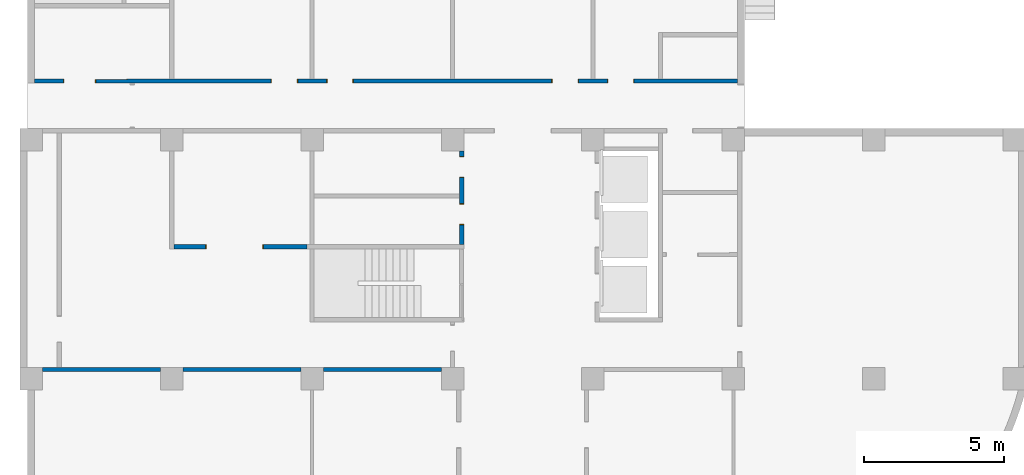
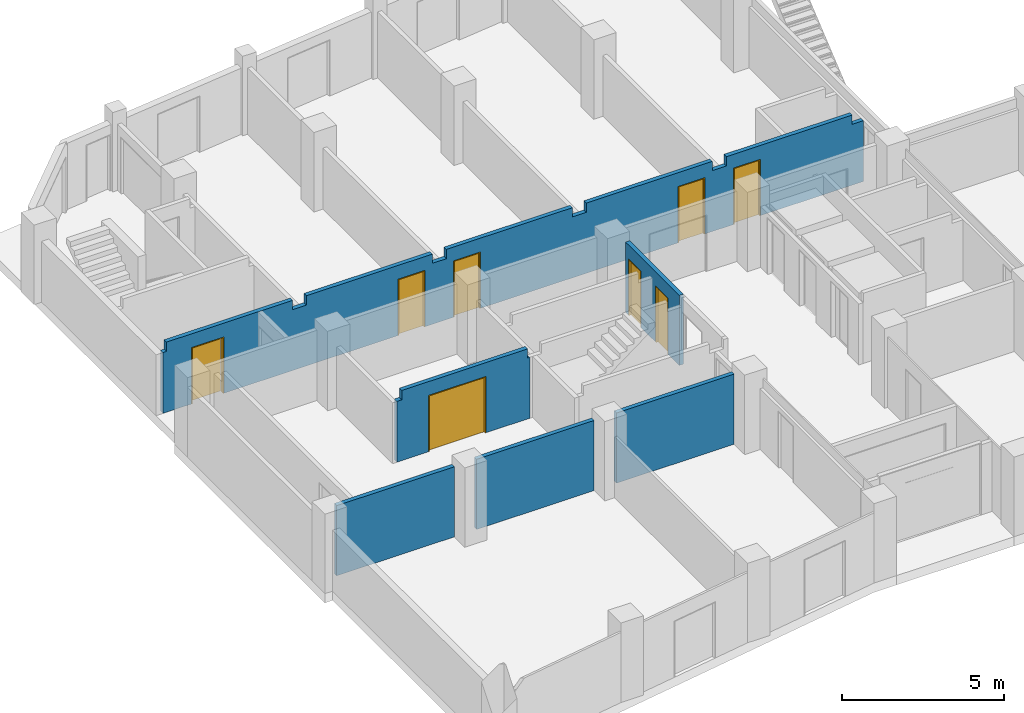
# One storey, part 5 of 9: 8 doors, 4 walls, 8 openings.
"""IFC2X3 building model written with IfcOpenShell, lengths in millimetres."""

from ifc_helpers import new_model, entity, si_unit, converted_unit, derived_unit, money_unit, direction, frame, origin_with_axes, place, context, subcontext, project, spatial, open_shell, faceted_brep, surface_model, source, transform, mapped, material, type_object, element, fill, save


model = new_model("IFC2X3")

# Units and contexts
model_context = context("Model", 3, precision=0.01, world=origin_with_axes(), true_north=direction((0.0, 1.0)))
body_context = subcontext(model_context, "Body", "Model", "MODEL_VIEW")
ifc_project = project(units=[si_unit("LENGTHUNIT", "METRE", prefix="MILLI"), si_unit("AREAUNIT", "SQUARE_METRE"), si_unit("VOLUMEUNIT", "CUBIC_METRE"), converted_unit("PLANEANGLEUNIT", "DEGREE", entity("IfcPlaneAngleMeasure", 0.0174532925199), si_unit("PLANEANGLEUNIT", "RADIAN"), dimensions=[0, 0, 0, 0, 0, 0, 0]), si_unit("SOLIDANGLEUNIT", "STERADIAN"), money_unit("JPY"), converted_unit("TIMEUNIT", "Year", entity("IfcTimeMeasure", 31556926.0), si_unit("TIMEUNIT", "SECOND"), dimensions=[0, 0, 1, 0, 0, 0, 0]), si_unit("MASSUNIT", "GRAM", prefix="KILO"), si_unit("THERMODYNAMICTEMPERATUREUNIT", "DEGREE_CELSIUS"), si_unit("LUMINOUSINTENSITYUNIT", "LUMEN"), si_unit("ENERGYUNIT", "JOULE", prefix="MEGA"), derived_unit("THERMALCONDUCTANCEUNIT", [(si_unit("POWERUNIT", "WATT"), 1), (si_unit("LENGTHUNIT", "METRE"), -1), (si_unit("THERMODYNAMICTEMPERATUREUNIT", "KELVIN"), -1)]), derived_unit("SPECIFICHEATCAPACITYUNIT", [(si_unit("ENERGYUNIT", "JOULE"), 1), (si_unit("MASSUNIT", "GRAM", prefix="KILO"), -1), (si_unit("THERMODYNAMICTEMPERATUREUNIT", "KELVIN"), -1)]), derived_unit("MASSDENSITYUNIT", [(si_unit("MASSUNIT", "GRAM", prefix="KILO"), 1), (si_unit("VOLUMEUNIT", "CUBIC_METRE"), -1)])], contexts=[model_context])

# Site, building, storey
site_placement = place(None, origin_with_axes())
site = spatial("IfcSite", under=ifc_project, at=site_placement, Name="サイト", CompositionType="ELEMENT")
building_placement = place(site_placement, origin_with_axes())
building = spatial("IfcBuilding", under=site, at=building_placement, Name="建築", CompositionType="ELEMENT")
storey_placement = place(building_placement, origin_with_axes())
storey = spatial("IfcBuildingStorey", under=building, at=storey_placement, Name="1FL", CompositionType="ELEMENT", Elevation=0.0)

# Wall, openings, doors
ifc_material = material(Name="コンクリート")
wall_type = type_object("IfcWallType", Name="コンクリート 150", PredefinedType="NOTDEFINED")
wall_1_placement = place(storey_placement, frame((25275.0000022, 10600.0, 0.0), z_axis=(0.0, 0.0, 1.0), x_axis=(-1.0, 0.0, 0.0)))
wall_1 = element("IfcWall", 1, at=wall_1_placement, inside=storey, type_object=wall_type, material=ifc_material, Name="W9", context=body_context, shape_type="Brep", body=[
    faceted_brep([(21845.0000022, -75.0, 2130.0), (22970.0000022, -75.0, 2130.0), (24130.0000022, -75.0, 2130.0), (24130.0000022, -75.0, 0.0), (25150.0000022, -75.0, 0.0), (25150.0000022, -75.0, 2300.0), (25025.0000022, -75.0, 2300.0), (25025.0000022, -75.0, 2650.0), (20525.0000022, -75.0, 2650.0), (20525.0000022, -75.0, 2300.0), (20025.0000022, -75.0, 2300.0), (20025.0000022, -75.0, 2650.0), (15525.0000022, -75.0, 2650.0), (15525.0000022, -75.0, 2300.0), (15025.0000022, -75.0, 2300.0), (15025.0000022, -75.0, 2650.0), (10525.0000022, -75.0, 2650.0), (10525.0000022, -75.0, 2300.0), (10025.0000022, -75.0, 2300.0), (10025.0000022, -75.0, 2650.0), (5525.00000218, -75.0, 2650.0), (5525.00000218, -75.0, 2300.0), (5025.00000218, -75.0, 2300.0), (5025.00000218, -75.0, 2650.0), (525.000002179, -75.0, 2650.0), (525.000002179, -75.0, 2300.0), (125.0, -75.0, 2300.0), (125.0, -75.0, 0.0), (3805.00000218, -75.0, 0.0), (3805.00000218, -75.0, 2130.0), (4765.00000218, -75.0, 2130.0), (4765.00000218, -75.0, 0.0), (5785.00000218, -75.0, 0.0), (5785.00000218, -75.0, 2130.0), (6745.00000218, -75.0, 2130.0), (6745.00000218, -75.0, 0.0), (13805.0000022, -75.0, 0.0), (13805.0000022, -75.0, 2130.0), (14765.0000022, -75.0, 2130.0), (14765.0000022, -75.0, 0.0), (15785.0000022, -75.0, 0.0), (15785.0000022, -75.0, 2130.0), (16745.0000022, -75.0, 2130.0), (16745.0000022, -75.0, 0.0), (21845.0000022, -75.0, 0.0), (21845.0000022, -55.0, 2130.0), (22970.0000022, -55.0, 2130.0), (22970.0000022, 75.0, 2130.0), (24130.0000022, 75.0, 2130.0), (24130.0000022, 75.0, 0.0), (25150.0000022, 75.0, 0.0), (25150.0000022, 75.0, 2300.0), (25025.0000022, 75.0, 2300.0), (25025.0000022, 75.0, 2650.0), (20525.0000022, 75.0, 2650.0), (20525.0000022, 75.0, 2300.0), (20025.0000022, 75.0, 2300.0), (20025.0000022, 75.0, 2650.0), (15525.0000022, 75.0, 2650.0), (15525.0000022, 75.0, 2300.0), (15025.0000022, 75.0, 2300.0), (15025.0000022, 75.0, 2650.0), (10525.0000022, 75.0, 2650.0), (10525.0000022, 75.0, 2300.0), (10025.0000022, 75.0, 2300.0), (10025.0000022, 75.0, 2650.0), (5525.00000218, 75.0, 2650.0), (5525.00000218, 75.0, 2300.0), (5025.00000218, 75.0, 2300.0), (5025.00000218, 75.0, 2650.0), (525.000002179, 75.0, 2650.0), (525.000002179, 75.0, 2300.0), (125.0, 75.0, 2300.0), (125.0, 75.0, 0.0), (3805.00000218, 75.0, 0.0), (3805.00000218, 75.0, 2130.0), (4765.00000218, 75.0, 2130.0), (4765.00000218, 75.0, 0.0), (5785.00000218, 75.0, 0.0), (5785.00000218, 75.0, 2130.0), (6745.00000218, 75.0, 2130.0), (6745.00000218, 75.0, 0.0), (13805.0000022, 75.0, 0.0), (13805.0000022, 75.0, 2130.0), (14765.0000022, 75.0, 2130.0), (14765.0000022, 75.0, 0.0), (15785.0000022, 75.0, 0.0), (15785.0000022, 75.0, 2130.0), (16745.0000022, 75.0, 2130.0), (16745.0000022, 75.0, 0.0), (21845.0000022, -55.0, 0.0), (22970.0000022, 75.0, 0.0), (22970.0000022, -55.0, 0.0)], [[[0, 1, 2, 3, 4, 5, 6, 7, 8, 9, 10, 11, 12, 13, 14, 15, 16, 17, 18, 19, 20, 21, 22, 23, 24, 25, 26, 27, 28, 29, 30, 31, 32, 33, 34, 35, 36, 37, 38, 39, 40, 41, 42, 43, 44]], [[1, 0, 45, 46]], [[1, 46, 47, 48, 2]], [[2, 48, 49, 3]], [[49, 50, 4, 3]], [[5, 4, 50, 51]], [[5, 51, 52, 6]], [[7, 6, 52, 53]], [[53, 54, 8, 7]], [[8, 54, 55, 9]], [[9, 55, 56, 10]], [[11, 10, 56, 57]], [[57, 58, 12, 11]], [[12, 58, 59, 13]], [[13, 59, 60, 14]], [[15, 14, 60, 61]], [[61, 62, 16, 15]], [[16, 62, 63, 17]], [[17, 63, 64, 18]], [[19, 18, 64, 65]], [[65, 66, 20, 19]], [[20, 66, 67, 21]], [[21, 67, 68, 22]], [[23, 22, 68, 69]], [[24, 23, 69, 70]], [[24, 70, 71, 25]], [[26, 25, 71, 72]], [[72, 73, 27, 26]], [[73, 74, 28, 27]], [[75, 29, 28, 74]], [[76, 30, 29, 75]], [[77, 31, 30, 76]], [[31, 77, 78, 32]], [[78, 79, 33, 32]], [[79, 80, 34, 33]], [[80, 81, 35, 34]], [[82, 36, 35, 81]], [[37, 36, 82, 83]], [[38, 37, 83, 84]], [[39, 38, 84, 85]], [[39, 85, 86, 40]], [[40, 86, 87, 41]], [[41, 87, 88, 42]], [[42, 88, 89, 43]], [[90, 44, 43, 89, 91, 92]], [[0, 44, 90, 45]], [[90, 92, 46, 45]], [[46, 92, 91, 47]], [[50, 49, 48, 47, 91, 89, 88, 87, 86, 85, 84, 83, 82, 81, 80, 79, 78, 77, 76, 75, 74, 73, 72, 71, 70, 69, 68, 67, 66, 65, 64, 63, 62, 61, 60, 59, 58, 57, 56, 55, 54, 53, 52, 51]]]),
])
opening_1_placement = place(wall_1_placement, frame((16265.0000022, 0.0, 0.0), z_axis=(0.0, 0.0, 1.0), x_axis=(1.0, 0.0, 0.0)))
opening_1 = element("IfcOpeningElement", 2, at=opening_1_placement, cuts=wall_1, Name="SD3", context=body_context, shape_type="Brep", body=[
    faceted_brep([(480.0, 160.0, 0.0), (480.0, 160.0, 2130.0), (480.0, -160.0, 2130.0), (480.0, -160.0, 0.0), (-480.0, 160.0, 0.0), (-480.0, 160.0, 2130.0), (-480.0, -160.0, 2130.0), (-480.0, -160.0, 0.0)], [[[0, 1, 2, 3]], [[0, 4, 5, 1]], [[1, 5, 6, 2]], [[3, 2, 6, 7]], [[4, 0, 3, 7]], [[5, 4, 7, 6]]]),
])
opening_2_placement = place(wall_1_placement, frame((14285.0000022, 0.0, 0.0), z_axis=(0.0, 0.0, 1.0), x_axis=(1.0, 0.0, 0.0)))
opening_2 = element("IfcOpeningElement", 3, at=opening_2_placement, cuts=wall_1, Name="SD3", context=body_context, shape_type="Brep", body=[
    faceted_brep([(-480.0, -160.0, 0.0), (-480.0, -160.0, 2130.0), (-480.0, 160.0, 2130.0), (-480.0, 160.0, 0.0), (480.0, -160.0, 0.0), (480.0, -160.0, 2130.0), (480.0, 160.0, 2130.0), (480.0, 160.0, 0.0)], [[[0, 1, 2, 3]], [[0, 4, 5, 1]], [[1, 5, 6, 2]], [[3, 2, 6, 7]], [[4, 0, 3, 7]], [[5, 4, 7, 6]]]),
])
opening_3_placement = place(wall_1_placement, frame((4285.00000218, 0.0, 0.0), z_axis=(0.0, 0.0, 1.0), x_axis=(1.0, 0.0, 0.0)))
opening_3 = element("IfcOpeningElement", 4, at=opening_3_placement, cuts=wall_1, Name="SD3", context=body_context, shape_type="Brep", body=[
    faceted_brep([(-480.0, -160.0, 0.0), (-480.0, -160.0, 2130.0), (-480.0, 160.0, 2130.0), (-480.0, 160.0, 0.0), (480.0, -160.0, 0.0), (480.0, -160.0, 2130.0), (480.0, 160.0, 2130.0), (480.0, 160.0, 0.0)], [[[0, 1, 2, 3]], [[0, 4, 5, 1]], [[1, 5, 6, 2]], [[3, 2, 6, 7]], [[4, 0, 3, 7]], [[5, 4, 7, 6]]]),
])
opening_4_placement = place(wall_1_placement, frame((6265.00000218, 0.0, 0.0), z_axis=(0.0, 0.0, 1.0), x_axis=(1.0, 0.0, 0.0)))
opening_4 = element("IfcOpeningElement", 5, at=opening_4_placement, cuts=wall_1, Name="SD3", context=body_context, shape_type="Brep", body=[
    faceted_brep([(480.0, 160.0, 0.0), (480.0, 160.0, 2130.0), (480.0, -160.0, 2130.0), (480.0, -160.0, 0.0), (-480.0, 160.0, 0.0), (-480.0, 160.0, 2130.0), (-480.0, -160.0, 2130.0), (-480.0, -160.0, 0.0)], [[[0, 1, 2, 3]], [[0, 4, 5, 1]], [[1, 5, 6, 2]], [[3, 2, 6, 7]], [[4, 0, 3, 7]], [[5, 4, 7, 6]]]),
])
opening_5_placement = place(wall_1_placement, frame((23550.0000022, 0.0, 0.0), z_axis=(0.0, 0.0, 1.0), x_axis=(1.0, 0.0, 0.0)))
opening_5 = element("IfcOpeningElement", 6, at=opening_5_placement, cuts=wall_1, Name="SD4", context=body_context, shape_type="Brep", body=[
    faceted_brep([(-1705.0, -225.0, 0.0), (-1705.0, -225.0, 2130.0), (-1705.0, -55.0, 2130.0), (-1705.0, -55.0, 0.0), (580.0, -225.0, 0.0), (580.0, -225.0, 2130.0), (580.0, -55.0, 2130.0), (580.0, -55.0, 0.0)], [[[0, 1, 2, 3]], [[0, 4, 5, 1]], [[1, 5, 6, 2]], [[3, 2, 6, 7]], [[4, 0, 3, 7]], [[5, 4, 7, 6]]]),
    faceted_brep([(580.0, 160.0, 0.0), (580.0, 160.0, 2130.0), (580.0, -160.0, 2130.0), (580.0, -160.0, 0.0), (-580.0, 160.0, 0.0), (-580.0, 160.0, 2130.0), (-580.0, -160.0, 2130.0), (-580.0, -160.0, 0.0)], [[[0, 1, 2, 3]], [[0, 4, 5, 1]], [[1, 5, 6, 2]], [[3, 2, 6, 7]], [[4, 0, 3, 7]], [[5, 4, 7, 6]]]),
])
door_style_1 = type_object("IfcDoorStyle", Name="片開き戸", ConstructionType="NOTDEFINED", OperationType="NOTDEFINED", ParameterTakesPrecedence=False, Sizeable=False)
shared_shape_1 = source(origin_with_axes(), body_context, "Body", "SurfaceModel", [
    surface_model("IfcShellBasedSurfaceModel", [(-450.0, 85.0, 0.0), (-450.0, 85.0, 2100.0), (450.0, 85.0, 2100.0), (450.0, 85.0, 0.0)], [open_shell([[[0, 1, 2, 3]]])]),
    surface_model("IfcShellBasedSurfaceModel", [(-480.0, 160.0, 0.0), (-480.0, 160.0, 2130.0), (480.0, 160.0, 2130.0), (480.0, 160.0, 0.0), (450.0, 160.0, 0.0), (450.0, 160.0, 2100.0), (-450.0, 160.0, 2100.0), (-450.0, 160.0, 0.0)], [open_shell([[[0, 1, 2, 3, 4, 5, 6, 7]]])]),
    surface_model("IfcShellBasedSurfaceModel", [(-480.0, 10.0, 0.0), (-480.0, 10.0, 2130.0), (480.0, 10.0, 2130.0), (480.0, 10.0, 0.0), (450.0, 10.0, 0.0), (450.0, 10.0, 2100.0), (-450.0, 10.0, 2100.0), (-450.0, 10.0, 0.0)], [open_shell([[[0, 1, 2, 3, 4, 5, 6, 7]]])]),
    surface_model("IfcShellBasedSurfaceModel", [(-450.0, 160.0, 0.0), (-450.0, 160.0, 2100.0), (-450.0, 10.0, 2100.0), (-450.0, 10.0, 0.0), (450.0, 160.0, 2100.0), (450.0, 10.0, 2100.0), (-480.0, 160.0, 0.0), (-480.0, 10.0, 0.0), (450.0, 160.0, 0.0), (450.0, 10.0, 0.0), (-480.0, 160.0, 2130.0), (-480.0, 10.0, 2130.0), (480.0, 160.0, 0.0), (480.0, 10.0, 0.0), (480.0, 160.0, 2130.0), (480.0, 10.0, 2130.0)], [open_shell([[[0, 1, 2, 3]], [[1, 4, 5, 2]], [[6, 0, 3, 7]], [[4, 8, 9, 5]], [[10, 6, 7, 11]], [[8, 12, 13, 9]], [[14, 10, 11, 15]], [[12, 14, 15, 13]]])]),
])
door_1_placement = place(opening_4_placement, frame((450.0, 0.0, 0.0), z_axis=(0.0, 0.0, 1.0), x_axis=(-1.0, 0.0, 0.0)))
door_1 = element("IfcDoor", 7, at=door_1_placement, inside=storey, type_object=door_style_1, Name="SD3", OverallHeight=2165.0, OverallWidth=1030.0, context=body_context, shape_type="MappedRepresentation", body=[
    mapped(shared_shape_1, transform((450.0, -85.0, 0.0))),
])
fill(opening_4, door_1)
shared_shape_2 = source(origin_with_axes(), body_context, "Body", "SurfaceModel", [
    surface_model("IfcShellBasedSurfaceModel", [(-450.0, -85.0, 0.0), (-450.0, -85.0, 2100.0), (450.0, -85.0, 2100.0), (450.0, -85.0, 0.0)], [open_shell([[[0, 1, 2, 3]]])]),
    surface_model("IfcShellBasedSurfaceModel", [(-480.0, -10.0, 0.0), (-480.0, -10.0, 2130.0), (480.0, -10.0, 2130.0), (480.0, -10.0, 0.0), (450.0, -10.0, 0.0), (450.0, -10.0, 2100.0), (-450.0, -10.0, 2100.0), (-450.0, -10.0, 0.0)], [open_shell([[[0, 1, 2, 3, 4, 5, 6, 7]]])]),
    surface_model("IfcShellBasedSurfaceModel", [(-480.0, -160.0, 0.0), (-480.0, -160.0, 2130.0), (480.0, -160.0, 2130.0), (480.0, -160.0, 0.0), (450.0, -160.0, 0.0), (450.0, -160.0, 2100.0), (-450.0, -160.0, 2100.0), (-450.0, -160.0, 0.0)], [open_shell([[[0, 1, 2, 3, 4, 5, 6, 7]]])]),
    surface_model("IfcShellBasedSurfaceModel", [(-450.0, -10.0, 0.0), (-450.0, -10.0, 2100.0), (-450.0, -160.0, 2100.0), (-450.0, -160.0, 0.0), (450.0, -10.0, 2100.0), (450.0, -160.0, 2100.0), (-480.0, -10.0, 0.0), (-480.0, -160.0, 0.0), (450.0, -10.0, 0.0), (450.0, -160.0, 0.0), (-480.0, -10.0, 2130.0), (-480.0, -160.0, 2130.0), (480.0, -10.0, 0.0), (480.0, -160.0, 0.0), (480.0, -10.0, 2130.0), (480.0, -160.0, 2130.0)], [open_shell([[[0, 1, 2, 3]], [[1, 4, 5, 2]], [[6, 0, 3, 7]], [[4, 8, 9, 5]], [[10, 6, 7, 11]], [[8, 12, 13, 9]], [[14, 10, 11, 15]], [[12, 14, 15, 13]]])]),
])
door_2_placement = place(opening_1_placement, frame((450.0, 0.0, 0.0), z_axis=(0.0, 0.0, 1.0), x_axis=(-1.0, 0.0, 0.0)))
door_2 = element("IfcDoor", 8, at=door_2_placement, inside=storey, type_object=door_style_1, Name="SD3", OverallHeight=2165.0, OverallWidth=1030.0, context=body_context, shape_type="MappedRepresentation", body=[
    mapped(shared_shape_2, transform((450.0, 85.0, 0.0))),
])
fill(opening_1, door_2)
shared_shape_3 = source(origin_with_axes(), body_context, "Body", "SurfaceModel", [
    surface_model("IfcShellBasedSurfaceModel", [(450.0, -85.0, 0.0), (-450.0, -85.0, 0.0), (-450.0, -85.0, 2100.0), (450.0, -85.0, 2100.0)], [open_shell([[[0, 1, 2, 3]]])]),
    surface_model("IfcShellBasedSurfaceModel", [(480.0, -10.0, 0.0), (450.0, -10.0, 0.0), (450.0, -10.0, 2100.0), (-450.0, -10.0, 2100.0), (-450.0, -10.0, 0.0), (-480.0, -10.0, 0.0), (-480.0, -10.0, 2130.0), (480.0, -10.0, 2130.0)], [open_shell([[[0, 1, 2, 3, 4, 5, 6, 7]]])]),
    surface_model("IfcShellBasedSurfaceModel", [(480.0, -160.0, 0.0), (450.0, -160.0, 0.0), (450.0, -160.0, 2100.0), (-450.0, -160.0, 2100.0), (-450.0, -160.0, 0.0), (-480.0, -160.0, 0.0), (-480.0, -160.0, 2130.0), (480.0, -160.0, 2130.0)], [open_shell([[[0, 1, 2, 3, 4, 5, 6, 7]]])]),
    surface_model("IfcShellBasedSurfaceModel", [(450.0, -10.0, 0.0), (450.0, -160.0, 0.0), (450.0, -160.0, 2100.0), (450.0, -10.0, 2100.0), (480.0, -10.0, 0.0), (480.0, -160.0, 0.0), (-450.0, -160.0, 2100.0), (-450.0, -10.0, 2100.0), (480.0, -10.0, 2130.0), (480.0, -160.0, 2130.0), (-450.0, -160.0, 0.0), (-450.0, -10.0, 0.0), (-480.0, -10.0, 2130.0), (-480.0, -160.0, 2130.0), (-480.0, -160.0, 0.0), (-480.0, -10.0, 0.0)], [open_shell([[[0, 1, 2, 3]], [[4, 5, 1, 0]], [[3, 2, 6, 7]], [[8, 9, 5, 4]], [[7, 6, 10, 11]], [[12, 13, 9, 8]], [[11, 10, 14, 15]], [[15, 14, 13, 12]]])]),
])
door_3_placement = place(opening_2_placement, frame((450.0, 0.0, 0.0), z_axis=(0.0, 0.0, 1.0), x_axis=(-1.0, 0.0, 0.0)))
door_3 = element("IfcDoor", 9, at=door_3_placement, inside=storey, type_object=door_style_1, Name="SD3", OverallHeight=2165.0, OverallWidth=1030.0, context=body_context, shape_type="MappedRepresentation", body=[
    mapped(shared_shape_3, transform((450.0, 85.0, 0.0))),
])
fill(opening_2, door_3)
shared_shape_4 = source(origin_with_axes(), body_context, "Body", "SurfaceModel", [
    surface_model("IfcShellBasedSurfaceModel", [(450.0, 85.0, 0.0), (-450.0, 85.0, 0.0), (-450.0, 85.0, 2100.0), (450.0, 85.0, 2100.0)], [open_shell([[[0, 1, 2, 3]]])]),
    surface_model("IfcShellBasedSurfaceModel", [(480.0, 160.0, 0.0), (450.0, 160.0, 0.0), (450.0, 160.0, 2100.0), (-450.0, 160.0, 2100.0), (-450.0, 160.0, 0.0), (-480.0, 160.0, 0.0), (-480.0, 160.0, 2130.0), (480.0, 160.0, 2130.0)], [open_shell([[[0, 1, 2, 3, 4, 5, 6, 7]]])]),
    surface_model("IfcShellBasedSurfaceModel", [(480.0, 10.0, 0.0), (450.0, 10.0, 0.0), (450.0, 10.0, 2100.0), (-450.0, 10.0, 2100.0), (-450.0, 10.0, 0.0), (-480.0, 10.0, 0.0), (-480.0, 10.0, 2130.0), (480.0, 10.0, 2130.0)], [open_shell([[[0, 1, 2, 3, 4, 5, 6, 7]]])]),
    surface_model("IfcShellBasedSurfaceModel", [(450.0, 160.0, 0.0), (450.0, 10.0, 0.0), (450.0, 10.0, 2100.0), (450.0, 160.0, 2100.0), (480.0, 160.0, 0.0), (480.0, 10.0, 0.0), (-450.0, 10.0, 2100.0), (-450.0, 160.0, 2100.0), (480.0, 160.0, 2130.0), (480.0, 10.0, 2130.0), (-450.0, 10.0, 0.0), (-450.0, 160.0, 0.0), (-480.0, 160.0, 2130.0), (-480.0, 10.0, 2130.0), (-480.0, 10.0, 0.0), (-480.0, 160.0, 0.0)], [open_shell([[[0, 1, 2, 3]], [[4, 5, 1, 0]], [[3, 2, 6, 7]], [[8, 9, 5, 4]], [[7, 6, 10, 11]], [[12, 13, 9, 8]], [[11, 10, 14, 15]], [[15, 14, 13, 12]]])]),
])
door_4_placement = place(opening_3_placement, frame((450.0, 0.0, 0.0), z_axis=(0.0, 0.0, 1.0), x_axis=(-1.0, 0.0, 0.0)))
door_4 = element("IfcDoor", 10, at=door_4_placement, inside=storey, type_object=door_style_1, Name="SD3", OverallHeight=2165.0, OverallWidth=1030.0, context=body_context, shape_type="MappedRepresentation", body=[
    mapped(shared_shape_4, transform((450.0, -85.0, 0.0))),
])
fill(opening_3, door_4)
door_style_2 = type_object("IfcDoorStyle", Name="片引き戸", ConstructionType="NOTDEFINED", OperationType="NOTDEFINED", ParameterTakesPrecedence=False, Sizeable=False)
shared_shape_5 = source(origin_with_axes(), body_context, "Body", "SurfaceModel", [
    surface_model("IfcShellBasedSurfaceModel", [(-550.0, -0.5, 3.0), (-550.0, -0.5, 2103.0), (550.0, -0.5, 2103.0), (550.0, -0.5, 3.0)], [open_shell([[[0, 1, 2, 3]]])]),
    surface_model("IfcShellBasedSurfaceModel", [(-580.0, -10.0, 0.0), (-580.0, -10.0, 2130.0), (1705.0, -10.0, 2130.0), (1705.0, -10.0, 0.0), (1675.0, -10.0, 0.0), (1675.0, -10.0, 2100.0), (-550.0, -10.0, 2100.0), (-550.0, -10.0, 0.0)], [open_shell([[[0, 1, 2, 3, 4, 5, 6, 7]]])]),
    surface_model("IfcShellBasedSurfaceModel", [(580.0, -30.0, 2130.0), (1705.0, -30.0, 2130.0), (1705.0, -30.0, 0.0), (1675.0, -30.0, 0.0), (1675.0, -30.0, 2100.0), (580.0, -30.0, 2100.0)], [open_shell([[[0, 1, 2, 3, 4, 5]]])]),
    surface_model("IfcShellBasedSurfaceModel", [(-550.0, -10.0, 0.0), (-550.0, -10.0, 2100.0), (-550.0, -30.0, 2100.0), (-550.0, -30.0, 0.0), (1675.0, -10.0, 2100.0), (1675.0, -30.0, 2100.0), (-580.0, -10.0, 0.0), (-580.0, -30.0, 0.0), (1675.0, -10.0, 0.0), (1675.0, -30.0, 0.0), (-580.0, -10.0, 2130.0), (-580.0, -30.0, 2130.0), (1705.0, -10.0, 0.0), (1705.0, -30.0, 0.0), (1705.0, -10.0, 2130.0), (1705.0, -30.0, 2130.0)], [open_shell([[[0, 1, 2, 3]], [[1, 4, 5, 2]], [[6, 0, 3, 7]], [[4, 8, 9, 5]], [[10, 6, 7, 11]], [[8, 12, 13, 9]], [[14, 10, 11, 15]], [[12, 14, 15, 13]]])]),
    surface_model("IfcShellBasedSurfaceModel", [(-580.0, -30.0, 0.0), (-580.0, -30.0, 2130.0), (580.0, -30.0, 2130.0), (580.0, -30.0, 0.0), (550.0, -30.0, 0.0), (550.0, -30.0, 2100.0), (-550.0, -30.0, 2100.0), (-550.0, -30.0, 0.0)], [open_shell([[[0, 1, 2, 3, 4, 5, 6, 7]]])]),
    surface_model("IfcShellBasedSurfaceModel", [(-580.0, -160.0, 0.0), (-580.0, -160.0, 2130.0), (580.0, -160.0, 2130.0), (580.0, -160.0, 0.0), (550.0, -160.0, 0.0), (550.0, -160.0, 2100.0), (-550.0, -160.0, 2100.0), (-550.0, -160.0, 0.0)], [open_shell([[[0, 1, 2, 3, 4, 5, 6, 7]]])]),
    surface_model("IfcShellBasedSurfaceModel", [(-550.0, -30.0, 0.0), (-550.0, -30.0, 2100.0), (-550.0, -160.0, 2100.0), (-550.0, -160.0, 0.0), (550.0, -30.0, 2100.0), (550.0, -160.0, 2100.0), (-580.0, -30.0, 0.0), (-580.0, -160.0, 0.0), (550.0, -30.0, 0.0), (550.0, -160.0, 0.0), (-580.0, -30.0, 2130.0), (-580.0, -160.0, 2130.0), (580.0, -30.0, 0.0), (580.0, -160.0, 0.0), (580.0, -30.0, 2130.0), (580.0, -160.0, 2130.0)], [open_shell([[[0, 1, 2, 3]], [[1, 4, 5, 2]], [[6, 0, 3, 7]], [[4, 8, 9, 5]], [[10, 6, 7, 11]], [[8, 12, 13, 9]], [[14, 10, 11, 15]], [[12, 14, 15, 13]]])]),
])
door_5_placement = place(opening_5_placement, frame((550.0, 0.0, 0.0), z_axis=(0.0, 0.0, 1.0), x_axis=(-1.0, 0.0, 0.0)))
door_5 = element("IfcDoor", 11, at=door_5_placement, inside=storey, type_object=door_style_2, Name="SD4", OverallHeight=2150.0, OverallWidth=1200.0, context=body_context, shape_type="MappedRepresentation", body=[
    mapped(shared_shape_5, transform((550.0, 85.0, 0.0))),
])
fill(opening_5, door_5)

# Wall, opening, door
wall_2_placement = place(storey_placement, frame((5000.0, 4700.0, 0.0), z_axis=(0.0, 0.0, 1.0), x_axis=(1.0, 0.0, 0.0)))
wall_2 = element("IfcWall", 12, at=wall_2_placement, inside=storey, type_object=wall_type, material=ifc_material, Name="W0", context=body_context, shape_type="Brep", body=[
    faceted_brep([(1203.78916908, 75.0, 2130.0), (1203.78916908, 75.0, 0.0), (75.0, 75.0, 0.0), (75.0, 75.0, 2300.0), (250.0, 75.0, 2300.0), (250.0, 75.0, 2650.0), (4750.0, 75.0, 2650.0), (4750.0, 75.0, 2300.0), (4825.0, 75.0, 2300.0), (4825.0, 75.0, 0.0), (3263.78916908, 75.0, 0.0), (3263.78916908, 75.0, 2130.0), (1203.78916908, -75.0, 2130.0), (1203.78916908, -75.0, 0.0), (75.0, -75.0, 0.0), (75.0, -75.0, 2300.0), (250.0, -75.0, 2300.0), (250.0, -75.0, 2650.0), (4750.0, -75.0, 2650.0), (4750.0, -75.0, 2300.0), (4825.0, -75.0, 2300.0), (4825.0, -75.0, 0.0), (3263.78916908, -75.0, 0.0), (3263.78916908, -75.0, 2130.0)], [[[0, 1, 2, 3, 4, 5, 6, 7, 8, 9, 10, 11]], [[1, 0, 12, 13]], [[1, 13, 14, 2]], [[15, 3, 2, 14]], [[4, 3, 15, 16]], [[17, 5, 4, 16]], [[5, 17, 18, 6]], [[7, 6, 18, 19]], [[20, 8, 7, 19]], [[8, 20, 21, 9]], [[22, 10, 9, 21]], [[11, 10, 22, 23]], [[0, 11, 23, 12]], [[23, 22, 21, 20, 19, 18, 17, 16, 15, 14, 13, 12]]]),
])
opening_6_placement = place(wall_2_placement, frame((2233.78916908, 0.0, 0.0), z_axis=(0.0, 0.0, 1.0), x_axis=(1.0, 0.0, 0.0)))
opening_6 = element("IfcOpeningElement", 13, at=opening_6_placement, cuts=wall_2, Name="SD3", context=body_context, shape_type="Brep", body=[
    faceted_brep([(-1030.0, -160.0, 0.0), (-1030.0, -160.0, 2130.0), (-1030.0, 160.0, 2130.0), (-1030.0, 160.0, 0.0), (1030.0, -160.0, 0.0), (1030.0, -160.0, 2130.0), (1030.0, 160.0, 2130.0), (1030.0, 160.0, 0.0)], [[[0, 1, 2, 3]], [[0, 4, 5, 1]], [[1, 5, 6, 2]], [[3, 2, 6, 7]], [[4, 0, 3, 7]], [[5, 4, 7, 6]]]),
])
door_style_3 = type_object("IfcDoorStyle", Name="親子開き戸", ConstructionType="NOTDEFINED", OperationType="NOTDEFINED", ParameterTakesPrecedence=False, Sizeable=False)
door_6_placement = place(opening_6_placement, frame((1000.0, 0.0, 0.0), z_axis=(0.0, 0.0, 1.0), x_axis=(-1.0, 0.0, 0.0)))
door_6 = element("IfcDoor", 14, at=door_6_placement, inside=storey, type_object=door_style_3, Name="SD3", OverallHeight=2165.0, OverallWidth=2130.0, context=body_context, shape_type="SurfaceModel", body=[
    surface_model("IfcShellBasedSurfaceModel", [(1300.0, 0.0, 0.0), (0.0, 0.0, 0.0), (0.0, 0.0, 2100.0), (1300.0, 0.0, 2100.0)], [open_shell([[[0, 1, 2, 3]]])]),
    surface_model("IfcShellBasedSurfaceModel", [(1300.0, 0.0, 0.0), (1300.0, 0.0, 2100.0), (2000.0, 0.0, 2100.0), (2000.0, 0.0, 0.0)], [open_shell([[[0, 1, 2, 3]]])]),
    surface_model("IfcShellBasedSurfaceModel", [(2030.0, 75.0, 0.0), (2000.0, 75.0, 0.0), (2000.0, 75.0, 2100.0), (0.0, 75.0, 2100.0), (0.0, 75.0, 0.0), (-30.0, 75.0, 0.0), (-30.0, 75.0, 2130.0), (2030.0, 75.0, 2130.0)], [open_shell([[[0, 1, 2, 3, 4, 5, 6, 7]]])]),
    surface_model("IfcShellBasedSurfaceModel", [(2030.0, -75.0, 0.0), (2000.0, -75.0, 0.0), (2000.0, -75.0, 2100.0), (0.0, -75.0, 2100.0), (0.0, -75.0, 0.0), (-30.0, -75.0, 0.0), (-30.0, -75.0, 2130.0), (2030.0, -75.0, 2130.0)], [open_shell([[[0, 1, 2, 3, 4, 5, 6, 7]]])]),
    surface_model("IfcShellBasedSurfaceModel", [(2000.0, 75.0, 0.0), (2000.0, -75.0, 0.0), (2000.0, -75.0, 2100.0), (2000.0, 75.0, 2100.0), (2030.0, 75.0, 0.0), (2030.0, -75.0, 0.0), (0.0, -75.0, 2100.0), (0.0, 75.0, 2100.0), (2030.0, 75.0, 2130.0), (2030.0, -75.0, 2130.0), (0.0, -75.0, 0.0), (0.0, 75.0, 0.0), (-30.0, 75.0, 2130.0), (-30.0, -75.0, 2130.0), (-30.0, -75.0, 0.0), (-30.0, 75.0, 0.0)], [open_shell([[[0, 1, 2, 3]], [[4, 5, 1, 0]], [[3, 2, 6, 7]], [[8, 9, 5, 4]], [[7, 6, 10, 11]], [[12, 13, 9, 8]], [[11, 10, 14, 15]], [[15, 14, 13, 12]]])]),
])
fill(opening_6, door_6)

# Wall
wall_3_placement = place(storey_placement, frame((-275.00006329, 324.999998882, 0.0), z_axis=(0.0, 0.0, 1.0), x_axis=(1.0, 0.0, 0.0)))
element("IfcWall", 15, at=wall_3_placement, inside=storey, type_object=wall_type, material=ifc_material, Name="W4", context=body_context, shape_type="Brep", body=[
    faceted_brep([(4875.00006329, 75.0000011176, 0.0), (675.00006329, 75.0000011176, 0.0), (675.00006329, 75.0000011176, 2650.0), (4875.00006329, 75.0000011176, 2650.0), (4875.00006329, -75.0, 0.0), (675.00006329, -75.0, 0.0), (675.00006329, -74.9999988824, 2650.0), (4875.00006329, -74.9999988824, 2650.0)], [[[0, 1, 2, 3]], [[4, 5, 1, 0]], [[5, 6, 2, 1]], [[3, 2, 6, 7]], [[4, 0, 3, 7]], [[7, 6, 5, 4]]]),
    faceted_brep([(14875.0000633, 75.0000011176, 0.0), (10675.0000633, 75.0000011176, 0.0), (10675.0000633, 75.0000011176, 2650.0), (14875.0000633, 75.0000011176, 2650.0), (14875.0000633, -75.0, 0.0), (10675.0000633, -75.0, 0.0), (10675.0000633, -74.9999988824, 2650.0), (14875.0000633, -74.9999988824, 2650.0)], [[[0, 1, 2, 3]], [[4, 5, 1, 0]], [[5, 6, 2, 1]], [[3, 2, 6, 7]], [[4, 0, 3, 7]], [[7, 6, 5, 4]]]),
    faceted_brep([(9875.00006329, 75.0000011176, 0.0), (5675.00006329, 75.0000011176, 0.0), (5675.00006329, 75.0000011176, 2650.0), (9875.00006329, 75.0000011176, 2650.0), (9875.00006329, -75.0, 0.0), (5675.00006329, -75.0, 0.0), (5675.00006329, -74.9999988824, 2650.0), (9875.00006329, -74.9999988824, 2650.0)], [[[0, 1, 2, 3]], [[4, 5, 1, 0]], [[5, 6, 2, 1]], [[3, 2, 6, 7]], [[4, 0, 3, 7]], [[7, 6, 5, 4]]]),
])

# Wall, openings, doors
wall_4_placement = place(storey_placement, frame((15324.9999955, 4700.0, 0.0), z_axis=(0.0, 0.0, 1.0), x_axis=(0.0, 1.0, 0.0)))
wall_4 = element("IfcWall", 16, at=wall_4_placement, inside=storey, type_object=wall_type, material=ifc_material, Name="W4", context=body_context, shape_type="Brep", body=[
    faceted_brep([(2455.0, -75.0000031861, 0.0), (2455.0, -75.0000009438, 2130.0), (3215.0, -75.0000009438, 2130.0), (3215.0, -75.0000042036, 0.0), (3400.0, -75.0000044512, 0.0), (3400.0, -75.0000044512, 2650.0), (75.0, -75.0, 2650.0), (75.0, -75.0, 0.0), (780.0, -75.0000009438, 0.0), (780.0, -75.0, 2130.0), (1540.0, -75.0, 2130.0), (1540.0, -75.0000019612, 0.0), (2455.0, 75.0, 0.0), (2455.0, 75.0, 2130.0), (3215.0, 75.0, 2130.0), (3215.0, 75.0, 0.0), (3400.0, 75.0, 0.0), (3400.0, 74.9999957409, 2650.0), (75.0, 75.0, 2650.0), (75.0, 75.0, 0.0), (780.0, 75.0, 0.0), (780.0, 75.0, 2130.0), (1540.0, 75.0, 2130.0), (1540.0, 75.0, 0.0)], [[[0, 1, 2, 3, 4, 5, 6, 7, 8, 9, 10, 11]], [[1, 0, 12, 13]], [[2, 1, 13, 14]], [[3, 2, 14, 15]], [[3, 15, 16, 4]], [[5, 4, 16, 17]], [[17, 18, 6, 5]], [[7, 6, 18, 19]], [[8, 7, 19, 20]], [[8, 20, 21, 9]], [[9, 21, 22, 10]], [[10, 22, 23, 11]], [[12, 0, 11, 23]], [[13, 12, 23, 22, 21, 20, 19, 18, 17, 16, 15, 14]]]),
])
opening_7_placement = place(wall_4_placement, frame((1160.0, 0.0, 0.0), z_axis=(0.0, 0.0, 1.0), x_axis=(1.0, 0.0, 0.0)))
opening_7 = element("IfcOpeningElement", 17, at=opening_7_placement, cuts=wall_4, Name="SD3", context=body_context, shape_type="Brep", body=[
    faceted_brep([(-380.0, -160.0, 0.0), (-380.0, -160.0, 2130.0), (-380.0, 160.0, 2130.0), (-380.0, 160.0, 0.0), (380.0, -160.0, 0.0), (380.0, -160.0, 2130.0), (380.0, 160.0, 2130.0), (380.0, 160.0, 0.0)], [[[0, 1, 2, 3]], [[0, 4, 5, 1]], [[1, 5, 6, 2]], [[3, 2, 6, 7]], [[4, 0, 3, 7]], [[5, 4, 7, 6]]]),
])
opening_8_placement = place(wall_4_placement, frame((2835.0, 0.0, 0.0), z_axis=(0.0, 0.0, 1.0), x_axis=(1.0, 0.0, 0.0)))
opening_8 = element("IfcOpeningElement", 18, at=opening_8_placement, cuts=wall_4, Name="SD3", context=body_context, shape_type="Brep", body=[
    faceted_brep([(-380.0, -160.0, 0.0), (-380.0, -160.0, 2130.0), (-380.0, 160.0, 2130.0), (-380.0, 160.0, 0.0), (380.0, -160.0, 0.0), (380.0, -160.0, 2130.0), (380.0, 160.0, 2130.0), (380.0, 160.0, 0.0)], [[[0, 1, 2, 3]], [[0, 4, 5, 1]], [[1, 5, 6, 2]], [[3, 2, 6, 7]], [[4, 0, 3, 7]], [[5, 4, 7, 6]]]),
])
shared_shape_6 = source(origin_with_axes(), body_context, "Body", "SurfaceModel", [
    surface_model("IfcShellBasedSurfaceModel", [(-350.0, -85.0, 0.0), (-350.0, -85.0, 2100.0), (350.0, -85.0, 2100.0), (350.0, -85.0, 0.0)], [open_shell([[[0, 1, 2, 3]]])]),
    surface_model("IfcShellBasedSurfaceModel", [(-380.0, -10.0, 0.0), (-380.0, -10.0, 2130.0), (380.0, -10.0, 2130.0), (380.0, -10.0, 0.0), (350.0, -10.0, 0.0), (350.0, -10.0, 2100.0), (-350.0, -10.0, 2100.0), (-350.0, -10.0, 0.0)], [open_shell([[[0, 1, 2, 3, 4, 5, 6, 7]]])]),
    surface_model("IfcShellBasedSurfaceModel", [(-380.0, -160.0, 0.0), (-380.0, -160.0, 2130.0), (380.0, -160.0, 2130.0), (380.0, -160.0, 0.0), (350.0, -160.0, 0.0), (350.0, -160.0, 2100.0), (-350.0, -160.0, 2100.0), (-350.0, -160.0, 0.0)], [open_shell([[[0, 1, 2, 3, 4, 5, 6, 7]]])]),
    surface_model("IfcShellBasedSurfaceModel", [(-350.0, -10.0, 0.0), (-350.0, -10.0, 2100.0), (-350.0, -160.0, 2100.0), (-350.0, -160.0, 0.0), (350.0, -10.0, 2100.0), (350.0, -160.0, 2100.0), (-380.0, -10.0, 0.0), (-380.0, -160.0, 0.0), (350.0, -10.0, 0.0), (350.0, -160.0, 0.0), (-380.0, -10.0, 2130.0), (-380.0, -160.0, 2130.0), (380.0, -10.0, 0.0), (380.0, -160.0, 0.0), (380.0, -10.0, 2130.0), (380.0, -160.0, 2130.0)], [open_shell([[[0, 1, 2, 3]], [[1, 4, 5, 2]], [[6, 0, 3, 7]], [[4, 8, 9, 5]], [[10, 6, 7, 11]], [[8, 12, 13, 9]], [[14, 10, 11, 15]], [[12, 14, 15, 13]]])]),
])
door_7_placement = place(opening_7_placement, frame((-350.0, 0.0, 0.0), z_axis=(0.0, 0.0, 1.0), x_axis=(1.0, 0.0, 0.0)))
door_7 = element("IfcDoor", 19, at=door_7_placement, inside=storey, type_object=door_style_1, Name="SD3", OverallHeight=2165.0, OverallWidth=830.0, context=body_context, shape_type="MappedRepresentation", body=[
    mapped(shared_shape_6, transform((350.0, 85.0, 0.0))),
])
fill(opening_7, door_7)
door_8_placement = place(opening_8_placement, frame((-350.0, 0.0, 0.0), z_axis=(0.0, 0.0, 1.0), x_axis=(1.0, 0.0, 0.0)))
door_8 = element("IfcDoor", 20, at=door_8_placement, inside=storey, type_object=door_style_1, Name="SD3", OverallHeight=2165.0, OverallWidth=830.0, context=body_context, shape_type="MappedRepresentation", body=[
    mapped(shared_shape_6, transform((350.0, 85.0, 0.0))),
])
fill(opening_8, door_8)

save(model, "model.ifc")
